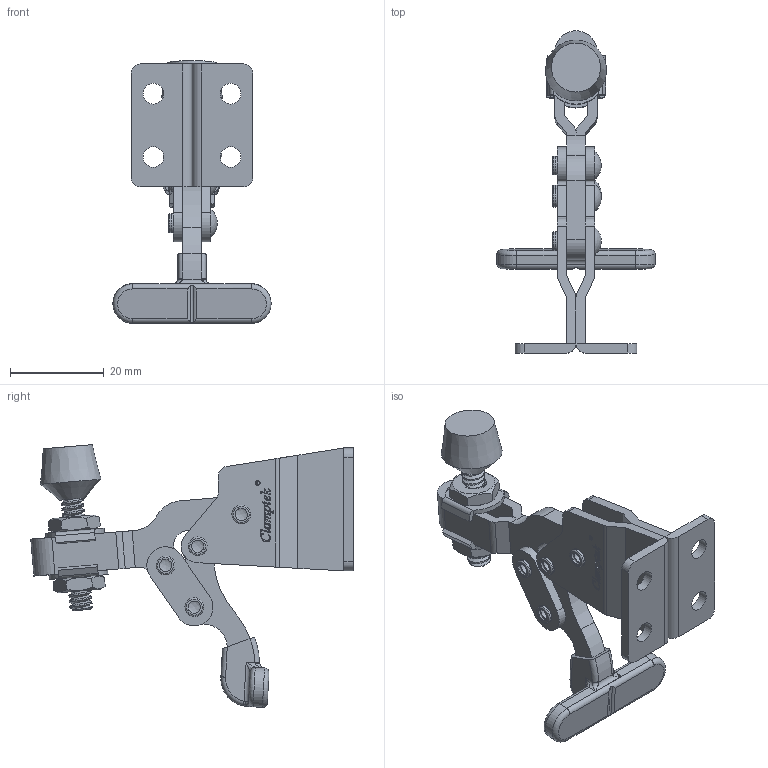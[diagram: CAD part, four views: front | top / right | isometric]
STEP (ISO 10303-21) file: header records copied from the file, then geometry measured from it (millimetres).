
FILE_DESCRIPTION(/* description */ ('STEP AP203'),/* implementation_level */ '2;1');
FILE_NAME(/* name */ 'D:\Vault_2016\Projekty\Clamptek\STRONA\Vertical toggle clamp\CH-13005-HB\CH-13005-HB_OTWARTY.stp',/* time_stamp */ '2019-01-16T15:11:04+01:00',/* author */ ('Łukasz'),/* organization */ ('Î¢ÈíÖÐ¹ú'),/* preprocessor_version */ 'ST-DEVELOPER v17.2',/* originating_system */ 'Autodesk Inventor 2019',/* authorisation */ '');
FILE_SCHEMA (('AUTOMOTIVE_DESIGN { 1 0 10303 214 3 1 1 }'));
Products named in the file (9): CH-13005-HB; CH-13005-02 U-BAR; CH-13005-HB-01 FLANGED BASE; CH-FW-100; CH-FC-10138 Nut; CH-13005-05 ; CH-FC-10138 SPINDLE SUPPLIED; CH-13005-03 T-HANDLE; CH-13005-04 CONNECTING-PLATE
Assembly tree (14 placements, depth 2):
  CH-13005-HB
    CH-FW-100  x2
    CH-13005-04 CONNECTING-PLATE  x2
    CH-13005-05   x4
    CH-13005-02 U-BAR
    CH-FC-10138 Nut  x2
    CH-13005-HB-01 FLANGED BASE
    CH-FC-10138 SPINDLE SUPPLIED
    CH-13005-03 T-HANDLE
Bounding box: 33.8 x 68.82 x 56.06 mm (x, y, z)
Volume: 10690.7 mm3; surface area: 11858 mm2
Topology: 15 solids, 16 shells, 653 faces, 1785 edges, 1198 vertices
Faces by surface type: plane 286, bspline 205, cylinder 127, torus 19, cone 12, sphere 4
Full cylindrical faces by diameter (mm): 0.848 x1, 0.99 x1, 3 x16, 3.8 x4, 4 x4, 4.4 x4, 4.8 x19, 4.9 x2, 9.526 x1
Entity records: 37641 total; most frequent: CARTESIAN_POINT 23554, ORIENTED_EDGE 3214, DIRECTION 2187, EDGE_CURVE 1607, VERTEX_POINT 1075, LINE 887, VECTOR 887, EDGE_LOOP 654
